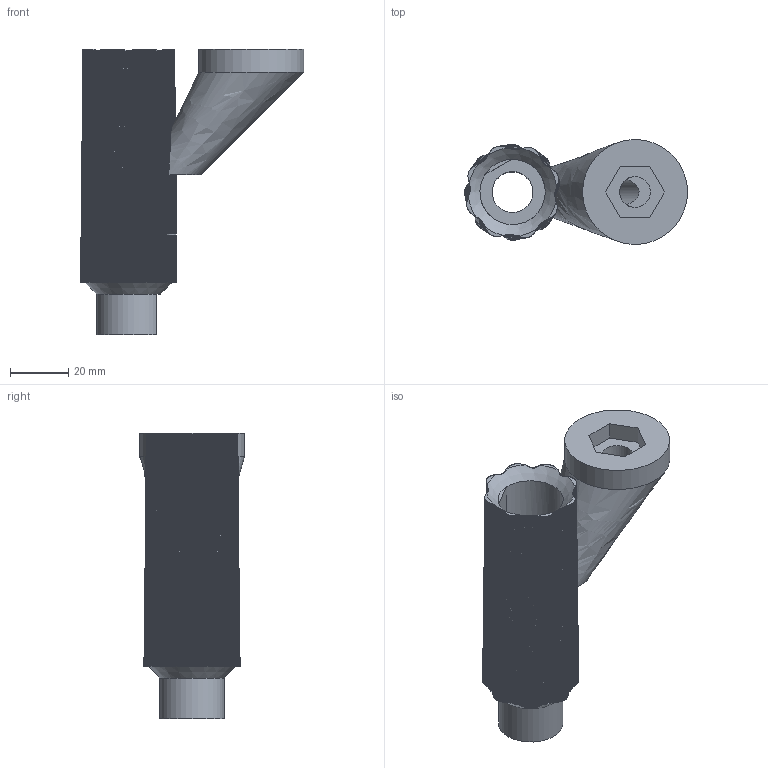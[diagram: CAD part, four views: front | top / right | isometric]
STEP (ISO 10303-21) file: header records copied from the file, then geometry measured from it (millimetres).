
FILE_DESCRIPTION(('Open CASCADE Model'),'2;1');
FILE_NAME('Open CASCADE Shape Model','2026-10-15T23:05:04',('Author'),( 'Open CASCADE'),'Open CASCADE STEP processor 7.9','Open CASCADE 7.9' ,'Unknown');
FILE_SCHEMA(('AUTOMOTIVE_DESIGN { 1 0 10303 214 1 1 1 1 }'));
Length unit declared in the file: millimetre
Products named in the file (1): Open CASCADE STEP translator 7.9 4
Bounding box: 76.5 x 36 x 98 mm (x, y, z)
Volume: 70941.4 mm3; surface area: 21899.2 mm2
Topology: 1 solids, 1 shells, 475 faces, 1381 edges, 908 vertices
Faces by surface type: bspline 427, plane 40, cylinder 6, cone 2
Full cylindrical faces by diameter (mm): 9 x1, 14 x1, 36 x1
Entity records: 37673 total; most frequent: CARTESIAN_POINT 17047, B_SPLINE_CURVE_WITH_KNOTS 2930, ORIENTED_EDGE 2762, PCURVE 2762, DEFINITIONAL_REPRESENTATION 2762, EDGE_CURVE 1381, SURFACE_CURVE 1374, DIRECTION 1351
